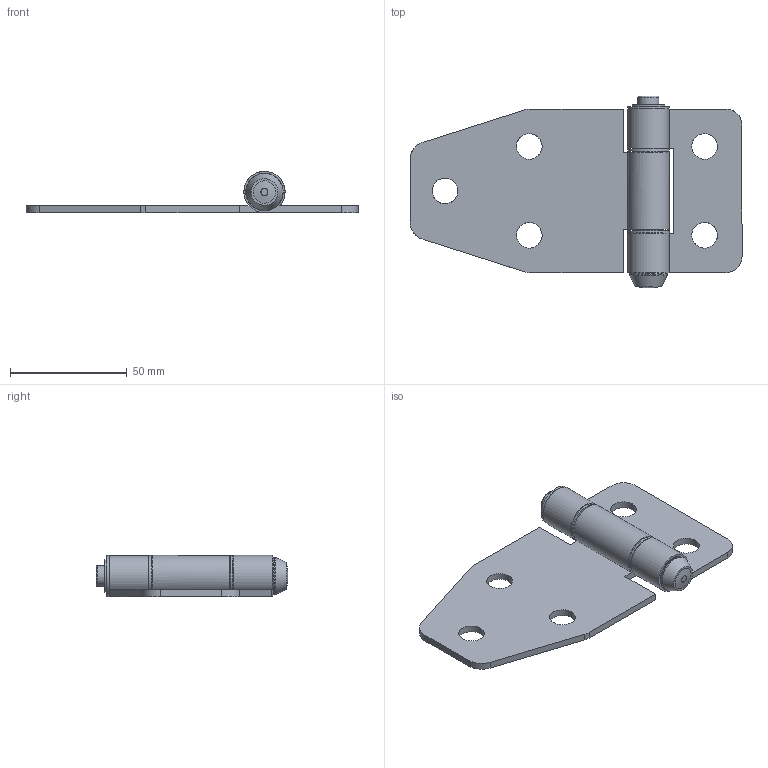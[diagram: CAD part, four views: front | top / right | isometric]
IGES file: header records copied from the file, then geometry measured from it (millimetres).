
Global section: file name: DR_HS70145-30; native system: Autodesk Inventor 2015; preprocessor: unknown; author: Administrator; date: 20180412.185407; units: millimetre
Bounding box: 142 x 82 x 17.6 mm (x, y, z)
Volume: 43239.7 mm3; surface area: 27136.5 mm2
Topology: 7 solids, 7 shells, 78 faces, 200 edges, 140 vertices
Faces by surface type: bspline 78
